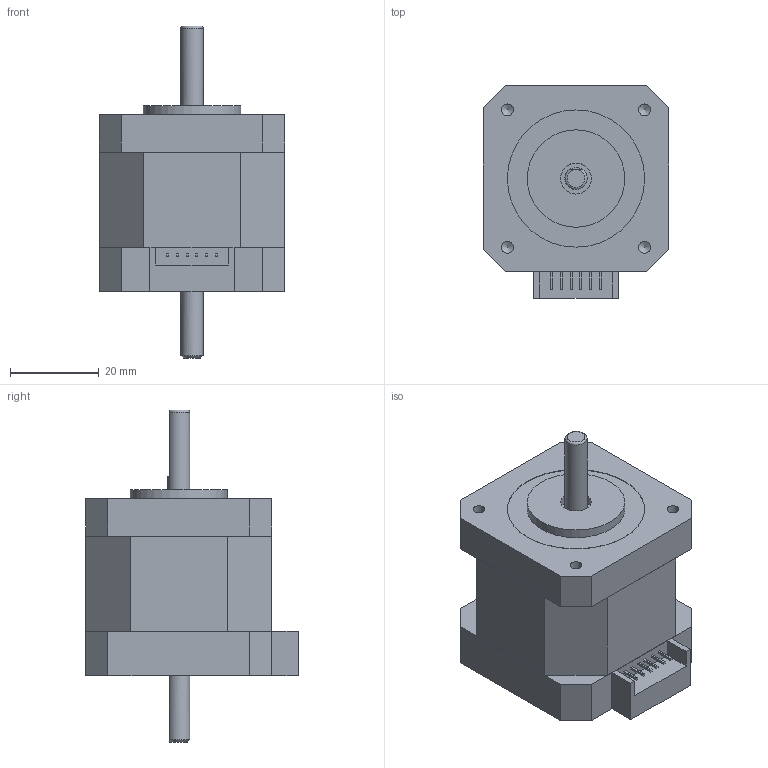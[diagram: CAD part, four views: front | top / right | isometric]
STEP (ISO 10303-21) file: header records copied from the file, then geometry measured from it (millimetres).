
FILE_DESCRIPTION(/* description */ (''),/* implementation_level */ '2;1');
FILE_NAME(/* name */ 'SST43D2126 shuangzhou.stp',/* time_stamp */ '2018-08-13T13:41:06+08:00',/* author */ (''),/* organization */ (''),/* preprocessor_version */ 'ST-DEVELOPER v11',/* originating_system */ 'SIEMENS UGS NX 6.0',/* authorisation */ '');
FILE_SCHEMA (('CONFIG_CONTROL_DESIGN'));
Length unit declared in the file: millimetre
Products named in the file (1): SST43D2126 shuangzhou
Bounding box: 42 x 48 x 75 mm (x, y, z)
Volume: 67011.4 mm3; surface area: 11264.6 mm2
Topology: 1 solids, 1 shells, 158 faces, 401 edges, 268 vertices
Faces by surface type: plane 133, cylinder 15, cone 9, torus 1
Full cylindrical faces by diameter (mm): 2.7 x4, 4.414 x4, 5 x2, 7 x2, 8.5 x1, 22 x1, 31 x1
Entity records: 4538 total; most frequent: CARTESIAN_POINT 795, ORIENTED_EDGE 720, DIRECTION 712, EDGE_CURVE 360, LINE 318, VECTOR 318, VERTEX_POINT 254, EDGE_LOOP 204
